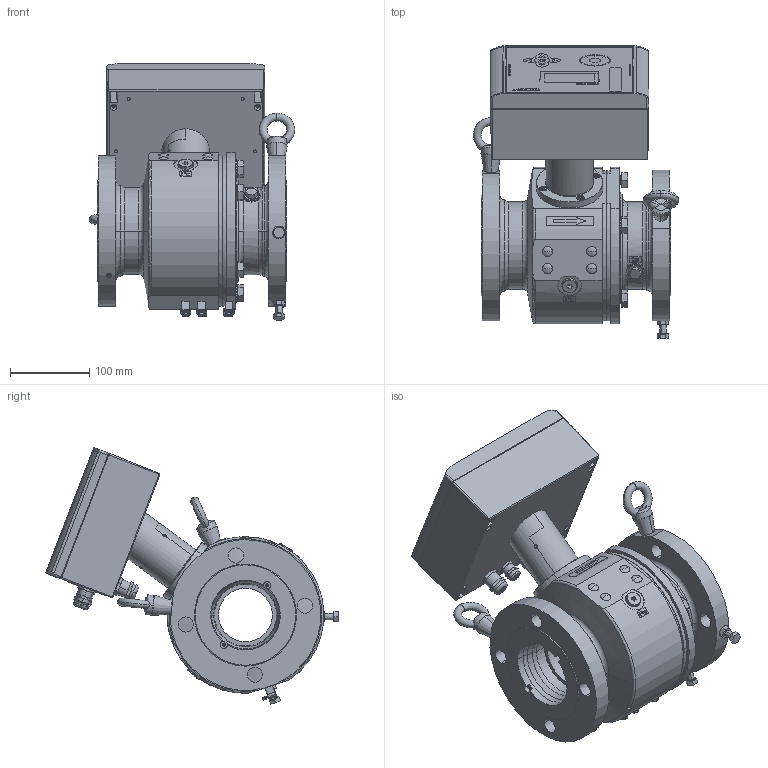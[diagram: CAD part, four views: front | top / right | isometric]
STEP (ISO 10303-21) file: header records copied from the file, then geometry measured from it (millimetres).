
FILE_DESCRIPTION((''),'2;1');
FILE_NAME('STANDARD_SW0001_A150_RE','2023-09-11T07:13:14',('R85801'),(''),'CREO PARAMETRIC BY PTC INC, 2022281','CREO PARAMETRIC BY PTC INC, 2022281','');
FILE_SCHEMA(('AP242_MANAGED_MODEL_BASED_3D_ENGINEERING_MIM_LF { 1 0 10303 442 1 1 4 }'));
Length unit declared in the file: millimetre
Products named in the file (2): STANDARD_SW0001_A150_RE; 10038_S235JRG2
Bounding box: 259.57 x 369.41 x 324.27 mm (x, y, z)
Volume: 4413675.2 mm3; surface area: 763591 mm2
Topology: 12 solids, 22 shells, 3903 faces, 9865 edges, 6262 vertices
Faces by surface type: plane 1886, cylinder 663, extrusion 632, cone 366, torus 280, sphere 40, bspline 36
Entity records: 185922 total; most frequent: CARTESIAN_POINT 30127, ORIENTED_EDGE 19602, DIRECTION 17739, PRESENTATION_STYLE_ASSIGNMENT 14240, STYLED_ITEM 10450, CURVE_STYLE 10437, EDGE_CURVE 9801, VECTOR 6495
